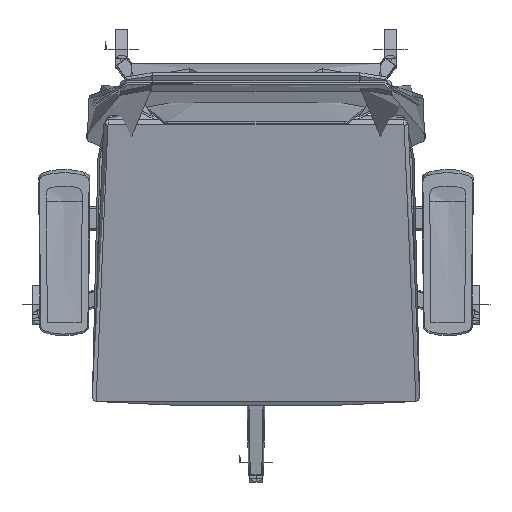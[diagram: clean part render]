
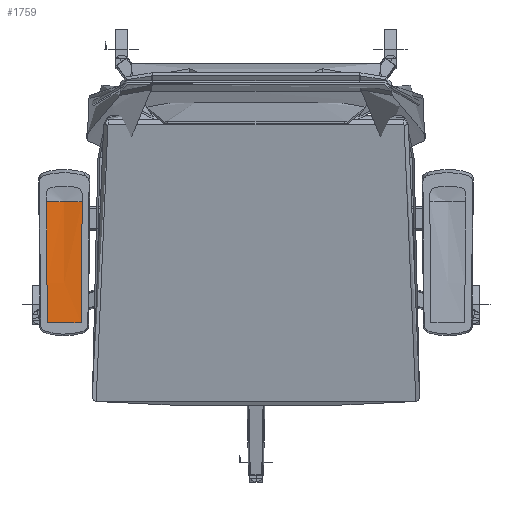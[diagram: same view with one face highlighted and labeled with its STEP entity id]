
A CAD part, top view. The second image highlights one B-rep face of the part: STEP entity #1759.
In plain terms, the highlighted free-form (B-spline) face has degree [2, 3] with [3, 4] control points.
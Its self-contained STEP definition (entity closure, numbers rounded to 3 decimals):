
#429=B_SPLINE_CURVE_WITH_KNOTS('',1,(#24529,#24530),.UNSPECIFIED.,.F.,.F.,
(2,2),(0.,50.276),.UNSPECIFIED.);
#1759=ADVANCED_FACE('',(#2216),#7327,.T.);
#2216=FACE_OUTER_BOUND('',#2673,.T.);
#2673=EDGE_LOOP('',(#3609,#3610,#3611,#3612,#3613));
#3609=ORIENTED_EDGE('',*,*,#5324,.F.);
#3610=ORIENTED_EDGE('',*,*,#5308,.F.);
#3611=ORIENTED_EDGE('',*,*,#5306,.F.);
#3612=ORIENTED_EDGE('',*,*,#5305,.F.);
#3613=ORIENTED_EDGE('',*,*,#5307,.F.);
#5305=EDGE_CURVE('',#6800,#6801,#6171,.T.);
#5306=EDGE_CURVE('',#6801,#6799,#6172,.T.);
#5307=EDGE_CURVE('',#6802,#6800,#6173,.T.);
#5308=EDGE_CURVE('',#6799,#6803,#6174,.T.);
#5324=EDGE_CURVE('',#6803,#6802,#429,.T.);
#6171=(
BOUNDED_CURVE()
B_SPLINE_CURVE(2,(#24454,#24455,#24456),.UNSPECIFIED.,.F.,.F.)
B_SPLINE_CURVE_WITH_KNOTS((3,3),(0.,26.864),.UNSPECIFIED.)
CURVE()
GEOMETRIC_REPRESENTATION_ITEM()
RATIONAL_B_SPLINE_CURVE((1.,0.994,1.))
REPRESENTATION_ITEM('')
);
#6172=(
BOUNDED_CURVE()
B_SPLINE_CURVE(2,(#24457,#24458,#24459),.UNSPECIFIED.,.F.,.F.)
B_SPLINE_CURVE_WITH_KNOTS((3,3),(-26.864,0.),.UNSPECIFIED.)
CURVE()
GEOMETRIC_REPRESENTATION_ITEM()
RATIONAL_B_SPLINE_CURVE((1.,0.994,1.))
REPRESENTATION_ITEM('')
);
#6173=(
BOUNDED_CURVE()
B_SPLINE_CURVE(3,(#24460,#24461,#24462,#24463),.UNSPECIFIED.,.F.,.F.)
B_SPLINE_CURVE_WITH_KNOTS((4,4),(0.,180.167),.UNSPECIFIED.)
CURVE()
GEOMETRIC_REPRESENTATION_ITEM()
RATIONAL_B_SPLINE_CURVE((1.,1.,1.,1.))
REPRESENTATION_ITEM('')
);
#6174=(
BOUNDED_CURVE()
B_SPLINE_CURVE(3,(#24464,#24465,#24466,#24467),.UNSPECIFIED.,.F.,.F.)
B_SPLINE_CURVE_WITH_KNOTS((4,4),(-180.167,0.),.UNSPECIFIED.)
CURVE()
GEOMETRIC_REPRESENTATION_ITEM()
RATIONAL_B_SPLINE_CURVE((1.,1.,1.,1.))
REPRESENTATION_ITEM('')
);
#6799=VERTEX_POINT('',#24426);
#6800=VERTEX_POINT('',#24427);
#6801=VERTEX_POINT('',#24428);
#6802=VERTEX_POINT('',#24429);
#6803=VERTEX_POINT('',#24430);
#7327=(
BOUNDED_SURFACE()
B_SPLINE_SURFACE(2,3,((#24346,#24347,#24348,#24349),(#24350,#24351,#24352,
#24353),(#24354,#24355,#24356,#24357)),.UNSPECIFIED.,.F.,.F.,.F.)
B_SPLINE_SURFACE_WITH_KNOTS((3,3),(4,4),(-53.728,0.),(0.,180.167),
 .UNSPECIFIED.)
GEOMETRIC_REPRESENTATION_ITEM()
RATIONAL_B_SPLINE_SURFACE(((1.,1.,1.,1.),(0.975,0.975,
0.975,0.975),(1.,1.,1.,1.)))
REPRESENTATION_ITEM('')
SURFACE()
);
#24346=CARTESIAN_POINT('',(-309.828,-114.598,720.57));
#24347=CARTESIAN_POINT('',(-310.329,-54.569,718.85));
#24348=CARTESIAN_POINT('',(-310.829,5.46,717.129));
#24349=CARTESIAN_POINT('',(-311.33,65.489,715.409));
#24350=CARTESIAN_POINT('',(-284.691,-114.598,720.57));
#24351=CARTESIAN_POINT('',(-284.691,-54.567,718.9));
#24352=CARTESIAN_POINT('',(-284.691,5.291,711.219));
#24353=CARTESIAN_POINT('',(-284.691,65.315,709.334));
#24354=CARTESIAN_POINT('',(-259.553,-114.598,720.57));
#24355=CARTESIAN_POINT('',(-259.052,-54.569,718.85));
#24356=CARTESIAN_POINT('',(-258.552,5.46,717.129));
#24357=CARTESIAN_POINT('',(-258.051,65.489,715.409));
#24426=CARTESIAN_POINT('',(-258.051,65.489,715.409));
#24427=CARTESIAN_POINT('',(-311.33,65.489,715.409));
#24428=CARTESIAN_POINT('',(-284.691,65.403,712.41));
#24429=CARTESIAN_POINT('',(-309.828,-114.598,720.57));
#24430=CARTESIAN_POINT('',(-259.553,-114.598,720.57));
#24454=CARTESIAN_POINT('',(-311.33,65.489,715.409));
#24455=CARTESIAN_POINT('',(-298.179,65.403,712.41));
#24456=CARTESIAN_POINT('',(-284.691,65.403,712.41));
#24457=CARTESIAN_POINT('',(-284.691,65.403,712.41));
#24458=CARTESIAN_POINT('',(-271.202,65.403,712.41));
#24459=CARTESIAN_POINT('',(-258.051,65.489,715.409));
#24460=CARTESIAN_POINT('',(-309.828,-114.598,720.57));
#24461=CARTESIAN_POINT('',(-310.329,-54.569,718.85));
#24462=CARTESIAN_POINT('',(-310.829,5.46,717.129));
#24463=CARTESIAN_POINT('',(-311.33,65.489,715.409));
#24464=CARTESIAN_POINT('',(-258.051,65.489,715.409));
#24465=CARTESIAN_POINT('',(-258.552,5.46,717.129));
#24466=CARTESIAN_POINT('',(-259.052,-54.569,718.85));
#24467=CARTESIAN_POINT('',(-259.553,-114.598,720.57));
#24529=CARTESIAN_POINT('',(-259.553,-114.598,720.57));
#24530=CARTESIAN_POINT('',(-309.828,-114.598,720.57));
